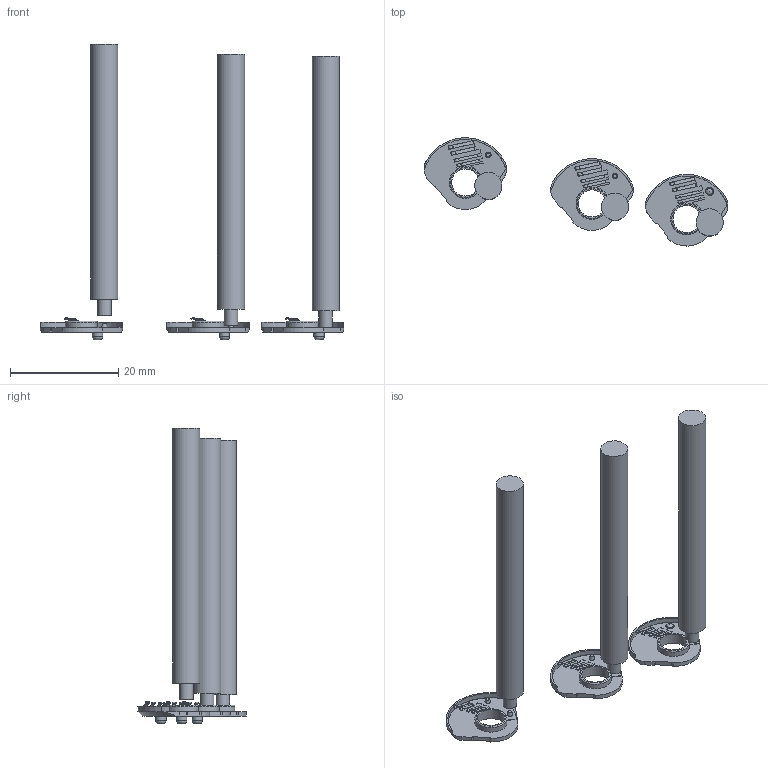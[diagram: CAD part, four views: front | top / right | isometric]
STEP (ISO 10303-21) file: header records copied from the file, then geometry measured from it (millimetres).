
FILE_DESCRIPTION((''),'2;1');
FILE_NAME('E:\Formulaire-2014-01-15 pour envoi\etudeSertissage\Imported Components\support_curseur_equipe sertissage\support_curseur_equipe sertissage.stp','2014-05-24T15:45:07',('DF'),(''),'Autodesk Inventor 2013','Autodesk Inventor 2013','');
FILE_SCHEMA(('AUTOMOTIVE_DESIGN { 1 0 10303 214 1 1 1 1 }'));
Length unit declared in the file: millimetre
Products named in the file (5): support_curseur_equipe sertissage; support curseur moulage; curseur; bouterole; support curseur
Assembly tree (9 placements, depth 2):
  support_curseur_equipe sertissage
    support curseur moulage  x2
    curseur  x3
    bouterole  x3
    support curseur
Bounding box: 56.07 x 19.94 x 54.49 mm (x, y, z)
Volume: 3161.8 mm3; surface area: 3812 mm2
Topology: 9 solids, 9 shells, 323 faces, 860 edges, 573 vertices
Faces by surface type: plane 180, cylinder 125, cone 7, sphere 5, torus 3, bspline 3
Full cylindrical faces by diameter (mm): 1 x8, 1.92 x3, 2.5 x3, 5 x6, 5.9 x3
Entity records: 4378 total; most frequent: CARTESIAN_POINT 852, DIRECTION 734, ORIENTED_EDGE 646, EDGE_CURVE 323, AXIS2_PLACEMENT_3D 269, VERTEX_POINT 227, VECTOR 196, LINE 196
